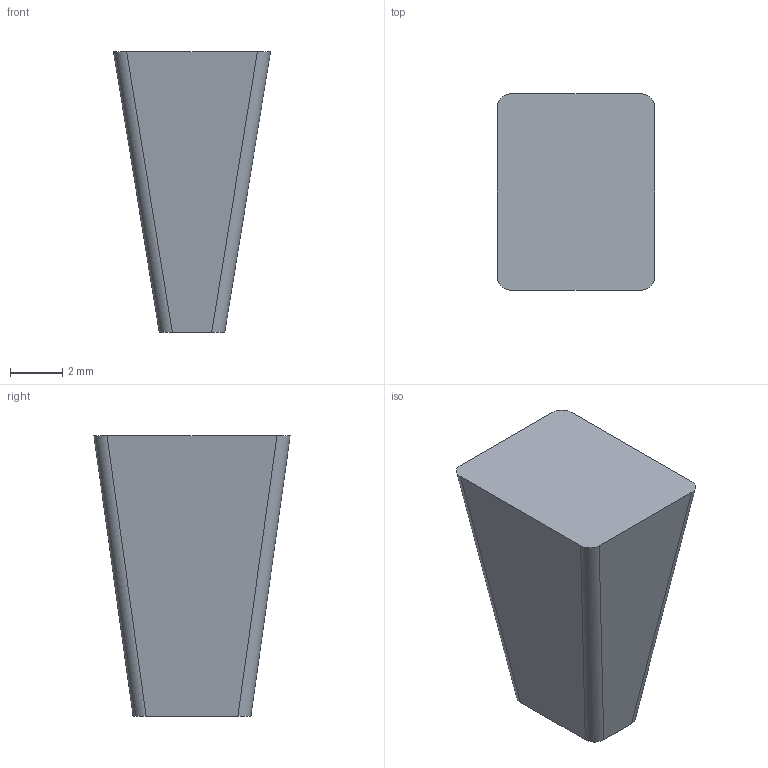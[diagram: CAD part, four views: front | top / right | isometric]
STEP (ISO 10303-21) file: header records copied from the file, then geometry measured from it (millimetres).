
FILE_DESCRIPTION(('Open CASCADE Model'),'2;1');
FILE_NAME('Open CASCADE Shape Model','2026-09-15T13:40:31',('Author'),( 'Open CASCADE'),'Open CASCADE STEP processor 7.7','Open CASCADE 7.7' ,'Unknown');
FILE_SCHEMA(('AUTOMOTIVE_DESIGN { 1 0 10303 214 1 1 1 1 }'));
Length unit declared in the file: millimetre
Products named in the file (1): COMPOUND
Bounding box: 6 x 7.5 x 10.71 mm (x, y, z)
Volume: 280.2 mm3; surface area: 268.9 mm2
Topology: 1 solids, 1 shells, 10 faces, 24 edges, 16 vertices
Faces by surface type: bspline 8, plane 2
Entity records: 654 total; most frequent: CARTESIAN_POINT 183, DIRECTION 74, ORIENTED_EDGE 48, PCURVE 48, DEFINITIONAL_REPRESENTATION 48, LINE 44, VECTOR 44, EDGE_CURVE 24
